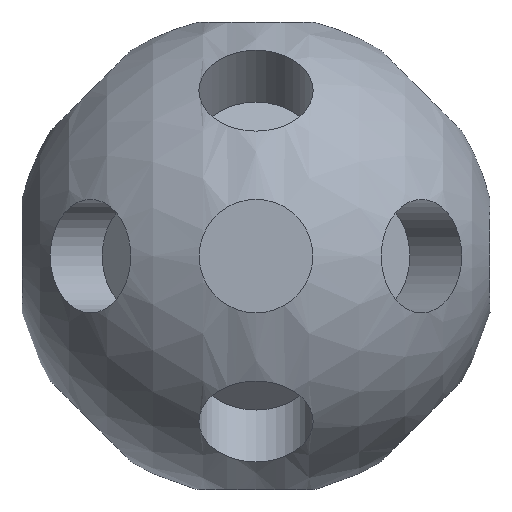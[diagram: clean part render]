
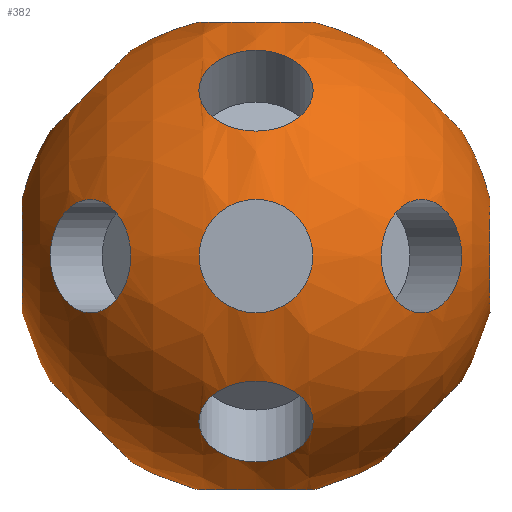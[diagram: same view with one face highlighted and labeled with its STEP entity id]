
A CAD part, left-side view. The second image highlights one B-rep face of the part: STEP entity #382.
In plain terms, the highlighted spherical face has radius 15 mm.
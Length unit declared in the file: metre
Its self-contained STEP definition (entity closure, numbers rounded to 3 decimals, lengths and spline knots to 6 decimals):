
#30=SPHERICAL_SURFACE('',#450,0.015);
#49=ORIENTED_EDGE('',*,*,#103,.T.);
#50=ORIENTED_EDGE('',*,*,#121,.T.);
#51=ORIENTED_EDGE('',*,*,#105,.T.);
#52=ORIENTED_EDGE('',*,*,#122,.T.);
#53=ORIENTED_EDGE('',*,*,#107,.T.);
#54=ORIENTED_EDGE('',*,*,#123,.T.);
#55=ORIENTED_EDGE('',*,*,#109,.T.);
#56=ORIENTED_EDGE('',*,*,#124,.T.);
#57=ORIENTED_EDGE('',*,*,#111,.T.);
#58=ORIENTED_EDGE('',*,*,#125,.T.);
#59=ORIENTED_EDGE('',*,*,#113,.T.);
#60=ORIENTED_EDGE('',*,*,#126,.T.);
#61=ORIENTED_EDGE('',*,*,#115,.T.);
#62=ORIENTED_EDGE('',*,*,#127,.T.);
#63=ORIENTED_EDGE('',*,*,#117,.T.);
#64=ORIENTED_EDGE('',*,*,#128,.T.);
#65=ORIENTED_EDGE('',*,*,#119,.T.);
#66=ORIENTED_EDGE('',*,*,#129,.F.);
#103=EDGE_CURVE('',#139,#139,#175,.T.);
#105=EDGE_CURVE('',#141,#141,#177,.T.);
#107=EDGE_CURVE('',#143,#143,#179,.T.);
#109=EDGE_CURVE('',#145,#145,#181,.T.);
#111=EDGE_CURVE('',#147,#147,#183,.T.);
#113=EDGE_CURVE('',#149,#149,#185,.T.);
#115=EDGE_CURVE('',#151,#151,#187,.T.);
#117=EDGE_CURVE('',#153,#153,#189,.T.);
#119=EDGE_CURVE('',#155,#155,#191,.T.);
#121=EDGE_CURVE('',#157,#157,#193,.T.);
#122=EDGE_CURVE('',#158,#158,#194,.T.);
#123=EDGE_CURVE('',#159,#159,#195,.T.);
#124=EDGE_CURVE('',#160,#160,#196,.T.);
#125=EDGE_CURVE('',#161,#161,#197,.T.);
#126=EDGE_CURVE('',#162,#162,#198,.T.);
#127=EDGE_CURVE('',#163,#163,#199,.T.);
#128=EDGE_CURVE('',#164,#164,#200,.T.);
#129=EDGE_CURVE('',#165,#165,#201,.F.);
#139=VERTEX_POINT('',#647);
#141=VERTEX_POINT('',#652);
#143=VERTEX_POINT('',#657);
#145=VERTEX_POINT('',#662);
#147=VERTEX_POINT('',#667);
#149=VERTEX_POINT('',#672);
#151=VERTEX_POINT('',#677);
#153=VERTEX_POINT('',#682);
#155=VERTEX_POINT('',#687);
#157=VERTEX_POINT('',#692);
#158=VERTEX_POINT('',#694);
#159=VERTEX_POINT('',#696);
#160=VERTEX_POINT('',#698);
#161=VERTEX_POINT('',#700);
#162=VERTEX_POINT('',#702);
#163=VERTEX_POINT('',#704);
#164=VERTEX_POINT('',#706);
#165=VERTEX_POINT('',#708);
#175=CIRCLE('',#424,0.003675);
#177=CIRCLE('',#427,0.00356);
#179=CIRCLE('',#430,0.00356);
#181=CIRCLE('',#433,0.00356);
#183=CIRCLE('',#436,0.00356);
#185=CIRCLE('',#439,0.003538);
#187=CIRCLE('',#442,0.003538);
#189=CIRCLE('',#445,0.003538);
#191=CIRCLE('',#448,0.003538);
#193=CIRCLE('',#451,0.00356);
#194=CIRCLE('',#452,0.00356);
#195=CIRCLE('',#453,0.00356);
#196=CIRCLE('',#454,0.00356);
#197=CIRCLE('',#455,0.003538);
#198=CIRCLE('',#456,0.003538);
#199=CIRCLE('',#457,0.003538);
#200=CIRCLE('',#458,0.003538);
#201=CIRCLE('',#459,0.003625);
#229=EDGE_LOOP('',(#49));
#230=EDGE_LOOP('',(#50));
#231=EDGE_LOOP('',(#51));
#232=EDGE_LOOP('',(#52));
#233=EDGE_LOOP('',(#53));
#234=EDGE_LOOP('',(#54));
#235=EDGE_LOOP('',(#55));
#236=EDGE_LOOP('',(#56));
#237=EDGE_LOOP('',(#57));
#238=EDGE_LOOP('',(#58));
#239=EDGE_LOOP('',(#59));
#240=EDGE_LOOP('',(#60));
#241=EDGE_LOOP('',(#61));
#242=EDGE_LOOP('',(#62));
#243=EDGE_LOOP('',(#63));
#244=EDGE_LOOP('',(#64));
#245=EDGE_LOOP('',(#65));
#246=EDGE_LOOP('',(#66));
#301=FACE_BOUND('',#229,.T.);
#302=FACE_BOUND('',#230,.T.);
#303=FACE_BOUND('',#231,.T.);
#304=FACE_BOUND('',#232,.T.);
#305=FACE_BOUND('',#233,.T.);
#306=FACE_BOUND('',#234,.T.);
#307=FACE_BOUND('',#235,.T.);
#308=FACE_BOUND('',#236,.T.);
#309=FACE_BOUND('',#237,.T.);
#310=FACE_BOUND('',#238,.T.);
#311=FACE_BOUND('',#239,.T.);
#312=FACE_BOUND('',#240,.T.);
#313=FACE_BOUND('',#241,.T.);
#314=FACE_BOUND('',#242,.T.);
#315=FACE_BOUND('',#243,.T.);
#316=FACE_BOUND('',#244,.T.);
#317=FACE_BOUND('',#245,.T.);
#318=FACE_BOUND('',#246,.T.);
#382=ADVANCED_FACE('',(#301,#302,#303,#304,#305,#306,#307,#308,#309,#310,
#311,#312,#313,#314,#315,#316,#317,#318),#30,.T.);
#424=AXIS2_PLACEMENT_3D('',#646,#500,#501);
#427=AXIS2_PLACEMENT_3D('',#651,#506,#507);
#430=AXIS2_PLACEMENT_3D('',#656,#512,#513);
#433=AXIS2_PLACEMENT_3D('',#661,#518,#519);
#436=AXIS2_PLACEMENT_3D('',#666,#524,#525);
#439=AXIS2_PLACEMENT_3D('',#671,#530,#531);
#442=AXIS2_PLACEMENT_3D('',#676,#536,#537);
#445=AXIS2_PLACEMENT_3D('',#681,#542,#543);
#448=AXIS2_PLACEMENT_3D('',#686,#548,#549);
#450=AXIS2_PLACEMENT_3D('',#690,#552,#553);
#451=AXIS2_PLACEMENT_3D('',#691,#554,#555);
#452=AXIS2_PLACEMENT_3D('',#693,#556,#557);
#453=AXIS2_PLACEMENT_3D('',#695,#558,#559);
#454=AXIS2_PLACEMENT_3D('',#697,#560,#561);
#455=AXIS2_PLACEMENT_3D('',#699,#562,#563);
#456=AXIS2_PLACEMENT_3D('',#701,#564,#565);
#457=AXIS2_PLACEMENT_3D('',#703,#566,#567);
#458=AXIS2_PLACEMENT_3D('',#705,#568,#569);
#459=AXIS2_PLACEMENT_3D('',#707,#570,#571);
#500=DIRECTION('',(0.,0.,1.));
#501=DIRECTION('',(1.,0.,0.));
#506=DIRECTION('',(0.,0.707,-0.707));
#507=DIRECTION('',(0.,0.707,0.707));
#512=DIRECTION('',(0.,-0.707,-0.707));
#513=DIRECTION('',(0.,0.707,-0.707));
#518=DIRECTION('',(-0.707,0.,-0.707));
#519=DIRECTION('',(-0.707,0.,0.707));
#524=DIRECTION('',(0.707,0.,-0.707));
#525=DIRECTION('',(-0.707,0.,-0.707));
#530=DIRECTION('',(-0.707,-0.707,0.));
#531=DIRECTION('',(0.707,-0.707,0.));
#536=DIRECTION('',(-0.707,0.707,0.));
#537=DIRECTION('',(-0.707,-0.707,0.));
#542=DIRECTION('',(1.,0.,0.));
#543=DIRECTION('',(0.,0.,-1.));
#548=DIRECTION('',(0.,-1.,0.));
#549=DIRECTION('',(0.,0.,-1.));
#552=DIRECTION('',(0.,1.,0.));
#553=DIRECTION('',(-1.,0.,0.));
#554=DIRECTION('',(0.,-0.707,0.707));
#555=DIRECTION('',(0.,-0.707,-0.707));
#556=DIRECTION('',(0.,0.707,0.707));
#557=DIRECTION('',(0.,-0.707,0.707));
#558=DIRECTION('',(0.707,0.,0.707));
#559=DIRECTION('',(0.707,0.,-0.707));
#560=DIRECTION('',(-0.707,0.,0.707));
#561=DIRECTION('',(0.707,0.,0.707));
#562=DIRECTION('',(0.707,0.707,0.));
#563=DIRECTION('',(-0.707,0.707,0.));
#564=DIRECTION('',(0.707,-0.707,0.));
#565=DIRECTION('',(0.707,0.707,0.));
#566=DIRECTION('',(-1.,0.,0.));
#567=DIRECTION('',(0.,0.,1.));
#568=DIRECTION('',(0.,1.,0.));
#569=DIRECTION('',(0.,0.,1.));
#570=DIRECTION('',(0.,0.,-1.));
#571=DIRECTION('',(-1.,0.,0.));
#646=CARTESIAN_POINT('',(0.,0.,-0.014543));
#647=CARTESIAN_POINT('',(0.003675,0.,-0.014543));
#651=CARTESIAN_POINT('',(0.,-0.010304,0.010304));
#652=CARTESIAN_POINT('',(0.,-0.007786,0.012821));
#656=CARTESIAN_POINT('',(0.,0.010304,0.010304));
#657=CARTESIAN_POINT('',(0.,0.012821,0.007786));
#661=CARTESIAN_POINT('',(0.010304,0.,0.010304));
#662=CARTESIAN_POINT('',(0.007786,0.,0.012821));
#666=CARTESIAN_POINT('',(-0.010304,0.,0.010304));
#667=CARTESIAN_POINT('',(-0.012821,0.,0.007786));
#671=CARTESIAN_POINT('',(0.010307,0.010307,0.));
#672=CARTESIAN_POINT('',(0.012809,0.007806,0.));
#676=CARTESIAN_POINT('',(0.010307,-0.010307,0.));
#677=CARTESIAN_POINT('',(0.007806,-0.012809,0.));
#681=CARTESIAN_POINT('',(-0.014577,0.,0.));
#682=CARTESIAN_POINT('',(-0.014577,0.,-0.003538));
#686=CARTESIAN_POINT('',(0.,0.014577,0.));
#687=CARTESIAN_POINT('',(0.,0.014577,-0.003538));
#690=CARTESIAN_POINT('',(0.,0.,0.));
#691=CARTESIAN_POINT('',(0.,0.010304,-0.010304));
#692=CARTESIAN_POINT('',(0.,0.007786,-0.012821));
#693=CARTESIAN_POINT('',(0.,-0.010304,-0.010304));
#694=CARTESIAN_POINT('',(0.,-0.012821,-0.007786));
#695=CARTESIAN_POINT('',(-0.010304,0.,-0.010304));
#696=CARTESIAN_POINT('',(-0.007786,0.,-0.012821));
#697=CARTESIAN_POINT('',(0.010304,0.,-0.010304));
#698=CARTESIAN_POINT('',(0.012821,0.,-0.007786));
#699=CARTESIAN_POINT('',(-0.010307,-0.010307,0.));
#700=CARTESIAN_POINT('',(-0.012809,-0.007806,0.));
#701=CARTESIAN_POINT('',(-0.010307,0.010307,0.));
#702=CARTESIAN_POINT('',(-0.007806,0.012809,0.));
#703=CARTESIAN_POINT('',(0.014577,0.,0.));
#704=CARTESIAN_POINT('',(0.014577,0.,0.003538));
#705=CARTESIAN_POINT('',(0.,-0.014577,0.));
#706=CARTESIAN_POINT('',(0.,-0.014577,0.003538));
#707=CARTESIAN_POINT('',(0.,0.,0.014555));
#708=CARTESIAN_POINT('',(-0.003625,0.,0.014555));
